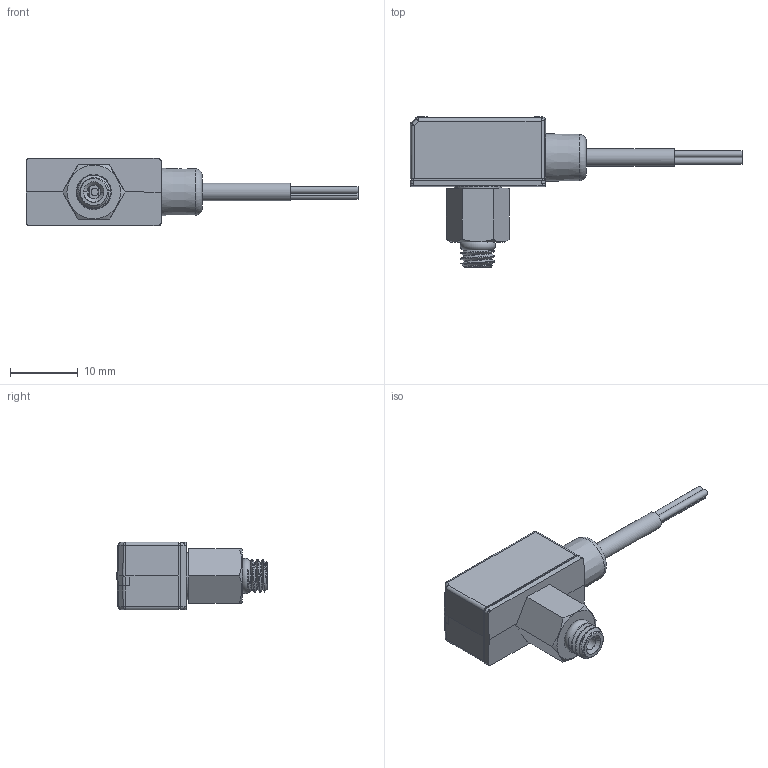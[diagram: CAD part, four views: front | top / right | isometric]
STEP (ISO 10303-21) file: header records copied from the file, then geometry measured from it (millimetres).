
FILE_DESCRIPTION(('STEP AP214'),'1');
FILE_NAME('82M5-AG.stp','2026-04-16T03:15:15',(' '),(' '),'Spatial InterOp 3D',' ',' ');
FILE_SCHEMA(('AUTOMOTIVE_DESIGN { 1 0 10303 214 1 1 1 1 }'));
Length unit declared in the file: millimetre
Products named in the file (3): MPS-※82M5-AG
Assembly tree (2 placements, depth 2):
  MPS-※82M5-AG
    MPS-※82M5-AG
    MPS-※82M5-AG
Bounding box: 49 x 22.17 x 10 mm (x, y, z)
Volume: 127.1 mm3; surface area: 3084 mm2
Topology: 1 solids, 18 shells, 344 faces, 1060 edges, 727 vertices
Faces by surface type: plane 237, cylinder 55, cone 33, bspline 12, torus 4, sphere 3
Full cylindrical faces by diameter (mm): 1 x1, 1.1 x1, 2 x1, 2.6 x1, 2.7 x2, 3 x1, 4.6 x1, 4.7 x1, 6.2 x2, 7.15 x1, 7.2 x1
Entity records: 16344 total; most frequent: CARTESIAN_POINT 5012, ORIENTED_EDGE 1862, DIRECTION 1465, EDGE_CURVE 1013, VERTEX_POINT 710, AXIS2_PLACEMENT_3D 495, LINE 475, VECTOR 475
